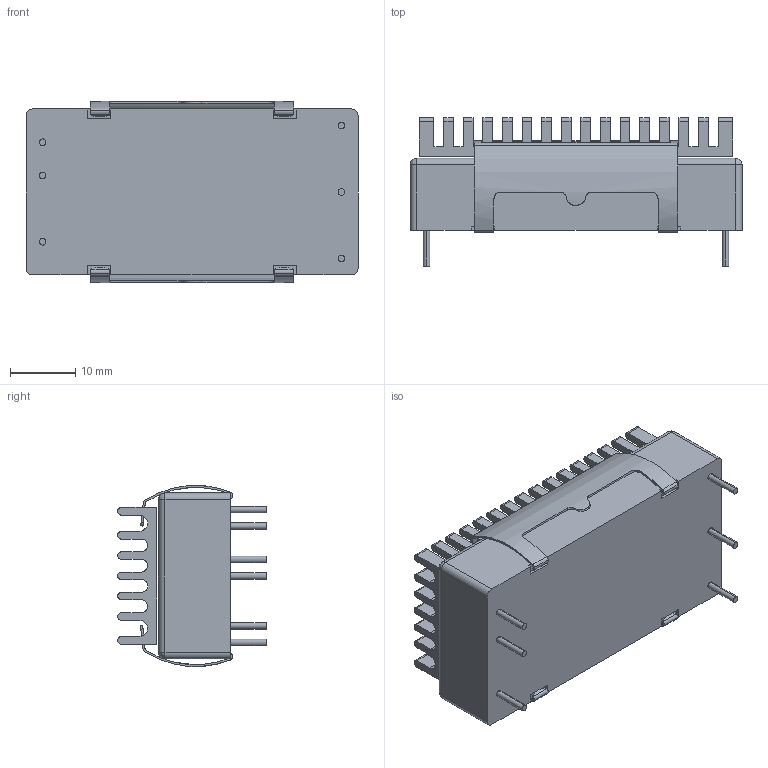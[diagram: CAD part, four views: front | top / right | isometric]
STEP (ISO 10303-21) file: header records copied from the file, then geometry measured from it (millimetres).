
FILE_DESCRIPTION (( 'STEP AP214' ), '1' );
FILE_NAME ('ten-hs6-assembly.STEP', '2017-09-21T06:49:53', ( '' ), ( '' ), 'SwSTEP 2.0', 'SolidWorks 2013', '' );
FILE_SCHEMA (( 'AUTOMOTIVE_DESIGN' ));
Length unit declared in the file: millimetre
Products named in the file (4): TEN-HS6(Heatsink); TEN-HS6(Clamp); ten50; ten-hs6-assembly
Assembly tree (4 placements, depth 2):
  ten-hs6-assembly
    ten50
    TEN-HS6(Clamp)  x2
    TEN-HS6(Heatsink)
Bounding box: 50.8 x 22.74 x 27.73 mm (x, y, z)
Volume: 16819.5 mm3; surface area: 10670.6 mm2
Topology: 4 solids, 4 shells, 771 faces, 2263 edges, 1502 vertices
Faces by surface type: plane 560, cylinder 161, bspline 46, torus 4
Entity records: 26350 total; most frequent: CARTESIAN_POINT 5928, ORIENTED_EDGE 4266, DIRECTION 4148, EDGE_CURVE 2133, VERTEX_POINT 1418, VECTOR 1392, LINE 1392, AXIS2_PLACEMENT_3D 1378
